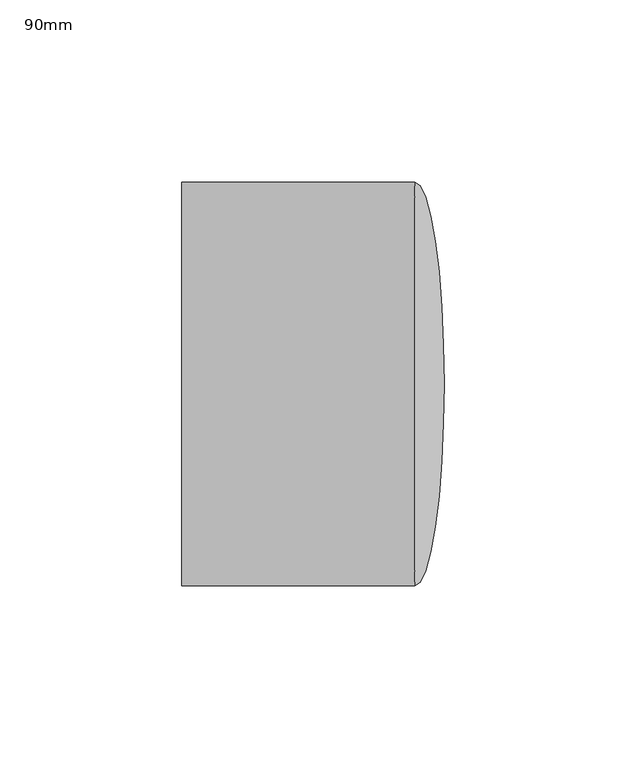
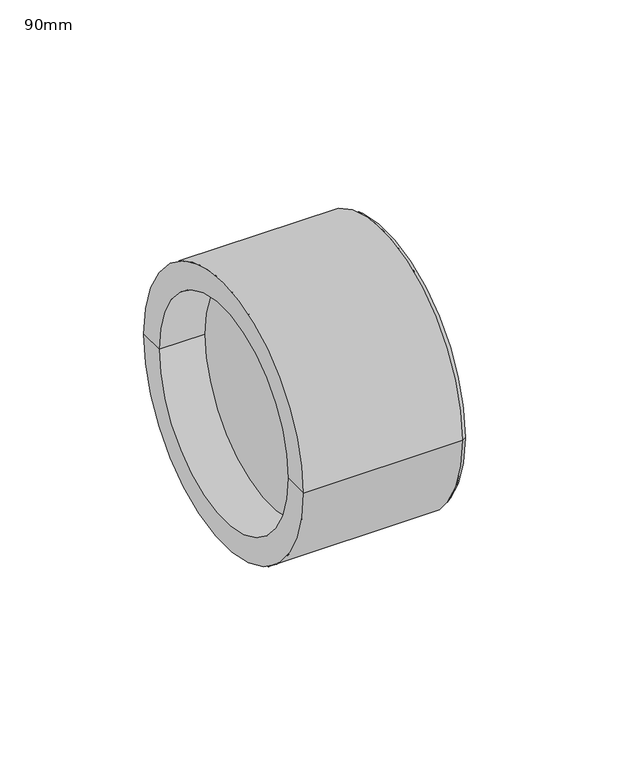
"""IFC4 building model written with IfcOpenShell, lengths in millimetres: pipe fitting geometry, PipeFitting_HTA_CPVC_Caps : 90mm."""

import ifcopenshell
import ifcopenshell.guid

model = None  # the IFC model being written
_history = None  # IfcOwnerHistory: only IFC2X3 demands one
_inside = {}  # id of a spatial element -> (the spatial element, [elements in it])
_under = {}  # id of a project, library or spatial element -> (it, [spatial elements below it])
_declared = {}  # id of a project -> (the project, [libraries it declares])
_typed = {}  # id of a type object -> (the type object, [elements of that type])
_made_of = {}  # id of a material, layer set ... -> (it, [elements and type objects made of it])


def new_model(schema):
    """Start an empty IFC model of exactly this schema.

    Asked for "IFC4X3", IfcOpenShell would pick the latest addendum, in which some entities
    have other attributes; the version numbers below select the first issue.
    IFC2X3 requires an IfcOwnerHistory on every rooted entity: one is made here for all.
    """
    global model, _history
    if schema == "IFC4X3":
        model = ifcopenshell.file(schema_version=(4, 3, 0, 0))
    else:
        model = ifcopenshell.file(schema=schema)
    _inside.clear()
    _under.clear()
    _declared.clear()
    _typed.clear()
    _made_of.clear()
    _history = None
    if model.schema == "IFC2X3":
        org = make("IfcOrganization", Name="unknown")
        user = make(
            "IfcPersonAndOrganization",
            ThePerson=make("IfcPerson", FamilyName="unknown"),
            TheOrganization=org,
        )
        app = make(
            "IfcApplication",
            ApplicationDeveloper=org,
            Version="unknown",
            ApplicationFullName="unknown",
            ApplicationIdentifier="unknown",
        )
        _history = make(
            "IfcOwnerHistory",
            OwningUser=user,
            OwningApplication=app,
            ChangeAction="ADDED",
            CreationDate=0,
        )
    return model


def make(cls, **values):
    """One entity of the class cls with the attributes given. An attribute that is None is left unset."""
    return model.create_entity(
        cls, **{name: value for name, value in values.items() if value is not None}
    )


def rooted(cls, **values):
    """An entity with a GlobalId (a new one), such as an element, a storey or a relation."""
    return make(cls, GlobalId=ifcopenshell.guid.new(), OwnerHistory=_history, **values)


def si_unit(unit_type, name, prefix=None):
    """IfcSIUnit, for example si_unit("LENGTHUNIT", "METRE", prefix="MILLI")."""
    return make("IfcSIUnit", UnitType=unit_type, Prefix=prefix, Name=name)


def assignment(units):
    """IfcUnitAssignment: the units of a project."""
    return None if units is None else make("IfcUnitAssignment", Units=units)


def point(xyz):
    """IfcCartesianPoint."""
    return None if xyz is None else make("IfcCartesianPoint", Coordinates=xyz)


def direction(xyz):
    """IfcDirection."""
    return None if xyz is None else make("IfcDirection", DirectionRatios=xyz)


def frame(location, z_axis=None, x_axis=None):
    """IfcAxis2Placement3D, a coordinate frame: its origin and axes. An axis left out is left unset."""
    return make(
        "IfcAxis2Placement3D",
        Location=point(location),
        Axis=direction(z_axis),
        RefDirection=direction(x_axis),
    )


def origin():
    """The frame at (0, 0, 0) with its axes left unset."""
    return frame((0.0, 0.0, 0.0))


def place(relative_to, where):
    """IfcLocalPlacement: puts the frame where relative to a parent placement (None: the world)."""
    return make(
        "IfcLocalPlacement", PlacementRelTo=relative_to, RelativePlacement=where
    )


def context(
    kind, dimensions, precision=None, world=None, true_north=None, identifier=None
):
    """IfcGeometricRepresentationContext, for example the 3D "Model" context."""
    return make(
        "IfcGeometricRepresentationContext",
        ContextIdentifier=identifier,
        ContextType=kind,
        CoordinateSpaceDimension=dimensions,
        Precision=precision,
        WorldCoordinateSystem=world,
        TrueNorth=true_north,
    )


def project(units=None, contexts=None):
    """IfcProject with its units and contexts."""
    return rooted(
        "IfcProject",
        Name="project",
        RepresentationContexts=contexts,
        UnitsInContext=assignment(units),
    )


def spatial(cls, under=None, at=None, **own):
    """A site, building, storey or space (cls), placed at a placement, below another one or the project."""
    s = rooted(cls, ObjectPlacement=at, **own)
    if under is not None:
        _under.setdefault(under.id(), (under, []))[1].append(s)
    return s


def polyline(points):
    """IfcPolyline through the points."""
    return make("IfcPolyline", Points=[point(p) for p in points])


def circle_curve(where, radius):
    """IfcCircle in the frame where."""
    return make("IfcCircle", Position=where, Radius=radius)


def ellipse_curve(where, semi_axis1, semi_axis2):
    """IfcEllipse in the frame where."""
    return make(
        "IfcEllipse", Position=where, SemiAxis1=semi_axis1, SemiAxis2=semi_axis2
    )


def trimmed(basis, trim1, trim2, sense, master):
    """IfcTrimmedCurve: the piece of a basis curve between two trims."""
    return make(
        "IfcTrimmedCurve",
        BasisCurve=basis,
        Trim1=trim1,
        Trim2=trim2,
        SenseAgreement=sense,
        MasterRepresentation=master,
    )


def shape(context_of_items, identifier, shape_type, items):
    """IfcShapeRepresentation: the items that make up one representation, for example the "Body"."""
    return make(
        "IfcShapeRepresentation",
        ContextOfItems=context_of_items,
        RepresentationIdentifier=identifier,
        RepresentationType=shape_type,
        Items=items,
    )


def source(mapping_origin, context_of_items, identifier, shape_type, items):
    """IfcRepresentationMap: a shape defined once, which mapped items show again and again."""
    return make(
        "IfcRepresentationMap",
        MappingOrigin=mapping_origin,
        MappedRepresentation=shape(context_of_items, identifier, shape_type, items),
    )


def transform(
    local_origin,
    x_axis=None,
    y_axis=None,
    z_axis=None,
    scale=None,
    scale2=None,
    scale3=None,
    uniform=True,
):
    """IfcCartesianTransformationOperator3D, or its non-uniform kind. x_axis, y_axis, z_axis: its Axis1, 2, 3."""
    if uniform:
        return make(
            "IfcCartesianTransformationOperator3D",
            Axis1=direction(x_axis),
            Axis2=direction(y_axis),
            LocalOrigin=point(local_origin),
            Scale=scale,
            Axis3=direction(z_axis),
        )
    return make(
        "IfcCartesianTransformationOperator3DnonUniform",
        Axis1=direction(x_axis),
        Axis2=direction(y_axis),
        LocalOrigin=point(local_origin),
        Scale=scale,
        Axis3=direction(z_axis),
        Scale2=scale2,
        Scale3=scale3,
    )


def mapped(mapping_source, mapping_target):
    """IfcMappedItem: shows the shape of a source again, moved by a transform."""
    return make(
        "IfcMappedItem", MappingSource=mapping_source, MappingTarget=mapping_target
    )


def made_of(thing, what):
    """Note that an element or type object is made of a material, layer set ...; save() writes the relation."""
    if what is not None:
        _made_of.setdefault(what.id(), (what, []))[1].append(thing)
    return thing


def element(
    cls,
    number,
    at=None,
    inside=None,
    cuts=None,
    type_object=None,
    material=None,
    context=None,
    identifier="Body",
    shape_type=None,
    held_by="IfcProductDefinitionShape",
    body=None,
    shapes=None,
    **own,
):
    """One element of the class cls, such as IfcWall. Its Tag is "e" and its number.

    at: its placement. inside: the storey or other place that contains it. cuts: it is an
    opening in that element (IfcRelVoidsElement). A single representation is given by context,
    identifier, shape_type and body (its items); several are given by shapes. held_by: the class
    of the entity that holds the representations. save() writes the other relations.
    """
    e = rooted(cls, Tag="e%d" % number, ObjectPlacement=at, **own)
    if body is not None:
        shapes = [shape(context, identifier, shape_type, body)]
    if shapes is not None:
        e.Representation = make(held_by, Representations=shapes)
    if inside is not None:
        _inside.setdefault(inside.id(), (inside, []))[1].append(e)
    if cuts is not None:
        rooted(
            "IfcRelVoidsElement", RelatingBuildingElement=cuts, RelatedOpeningElement=e
        )
    if type_object is not None:
        _typed.setdefault(type_object.id(), (type_object, []))[1].append(e)
    return made_of(e, material)


def aggregate(whole, parts):
    """IfcRelAggregates: a whole, such as a stair, and the parts it consists of."""
    return rooted("IfcRelAggregates", RelatingObject=whole, RelatedObjects=parts)


def save(model, path):
    """Write the relations noted so far, then the file.

    IfcRelAggregates (storeys below a building ...), IfcRelContainedInSpatialStructure (elements
    in a storey), IfcRelDefinesByType, IfcRelAssociatesMaterial and IfcRelDeclares: one each for
    every whole, place, type object, material and project.
    """
    for whole, parts in _under.values():
        aggregate(whole, parts)
    for where, things in _inside.values():
        rooted(
            "IfcRelContainedInSpatialStructure",
            RelatedElements=things,
            RelatingStructure=where,
        )
    for kind, things in _typed.values():
        rooted("IfcRelDefinesByType", RelatedObjects=things, RelatingType=kind)
    for what, things in _made_of.values():
        rooted("IfcRelAssociatesMaterial", RelatedObjects=things, RelatingMaterial=what)
    for by, libraries in _declared.values():
        rooted("IfcRelDeclares", RelatingContext=by, RelatedDefinitions=libraries)
    model.write(path)


def plane_surface(at):
    """IfcPlane: the flat surface through the origin of the frame at, square to its z axis."""
    return make("IfcPlane", Position=at)


def cylinder_surface(at, radius):
    """IfcCylindricalSurface: all points at the distance radius from the z axis of the frame at."""
    return make("IfcCylindricalSurface", Position=at, Radius=radius)


def revolved_surface(curve, axis_point, axis_direction):
    """IfcSurfaceOfRevolution: the curve turned about the line through axis_point along axis_direction."""
    return make(
        "IfcSurfaceOfRevolution",
        SweptCurve=make("IfcArbitraryOpenProfileDef", ProfileType="CURVE", Curve=curve),
        AxisPosition=make("IfcAxis1Placement", Location=point(axis_point), Axis=direction(axis_direction)),
    )


def advanced_brep(points, edges, surfaces, faces):
    """IfcAdvancedBrep: a solid bounded by faces that lie on surfaces and meet in shared edges.

    An edge is (start, end): straight between two places in points (the first is 0);
    or (start, end, curve); or (start, end, curve, False) where it runs against its curve.
    A face is (place in surfaces, loops), or (place, loops, False) where it looks against
    its surface's normal. A loop lists edges by number (the first is 1), with a minus sign
    where the edge is run from its end to its start. The first loop is the outer one.
    """
    corners = [point(p) for p in points]
    vertices = [make("IfcVertexPoint", VertexGeometry=c) for c in corners]
    made = []
    for start, end, *more in edges:
        made.append(
            make(
                "IfcEdgeCurve",
                EdgeStart=vertices[start],
                EdgeEnd=vertices[end],
                EdgeGeometry=more[0] if more else make("IfcPolyline", Points=[corners[start], corners[end]]),
                SameSense=more[1] if len(more) > 1 else True,
            )
        )
    hull = []
    for where, loops, *sense in faces:
        bounds = []
        for j, loop in enumerate(loops):
            ring = [make("IfcOrientedEdge", EdgeElement=made[abs(k) - 1], Orientation=k > 0) for k in loop]
            bounds.append(
                make(
                    "IfcFaceOuterBound" if j == 0 else "IfcFaceBound",
                    Bound=make("IfcEdgeLoop", EdgeList=ring),
                    Orientation=True,
                )
            )
        hull.append(make("IfcAdvancedFace", Bounds=bounds, FaceSurface=surfaces[where], SameSense=sense[0] if sense else True))
    return make("IfcAdvancedBrep", Outer=make("IfcClosedShell", CfsFaces=hull))


def pipe_fitting_90mm_d26f68dd(model_context):
    return source(origin(), model_context, "Body", "AdvancedBrep", [
        advanced_brep(
        [(27.9, -55.5, 0.0), (27.9, 55.5, 0.0), (36.0, 0.0, 0.0), (-36.0, -55.5, 0.0), (-36.0, 55.5, 0.0), (-36.0, -45.0, 0.0), (-36.0, 45.0, 0.0), (-17.4296875, -45.0, 0.0), (-17.4296875, 45.0, 0.0)],
        [
            (0, 1, circle_curve(frame((27.9, 0.0, 0.0), z_axis=(1.0, 0.0, 0.0), x_axis=(0.0, 1.0, 0.0)), 55.5)),
            (1, 2, ellipse_curve(frame((27.9, 0.0, 0.0), z_axis=(0.0, 0.0, -1.0), x_axis=(0.0, 1.0, 0.0)), 55.5, 8.1)),
            (2, 0, ellipse_curve(frame((27.9, 0.0, 0.0), z_axis=(0.0, 0.0, -1.0), x_axis=(0.0, -1.0, 0.0)), 55.5, 8.1)),
            (1, 0, circle_curve(frame((27.9, 0.0, 0.0), z_axis=(1.0, 0.0, 0.0), x_axis=(0.0, 1.0, 0.0)), 55.5)),
            (0, 3),
            (3, 4, circle_curve(frame((-36.0, 0.0, 0.0), z_axis=(1.0, 0.0, 0.0), x_axis=(0.0, 1.0, 0.0)), 55.5)),
            (4, 1),
            (4, 3, circle_curve(frame((-36.0, 0.0, 0.0), z_axis=(1.0, 0.0, 0.0), x_axis=(0.0, 1.0, 0.0)), 55.5)),
            (3, 5),
            (5, 6, circle_curve(frame((-36.0, 0.0, 0.0), z_axis=(1.0, 0.0, 0.0), x_axis=(0.0, 1.0, 0.0)), 45.0)),
            (6, 4),
            (6, 5, circle_curve(frame((-36.0, 0.0, 0.0), z_axis=(1.0, 0.0, 0.0), x_axis=(0.0, 1.0, 0.0)), 45.0)),
            (7, 8, circle_curve(frame((-17.4296875, 0.0, 0.0), z_axis=(-1.0, 0.0, 0.0), x_axis=(0.0, 1.0, 0.0)), 45.0)),
            (8, 7, circle_curve(frame((-17.4296875, 0.0, 0.0), z_axis=(-1.0, 0.0, 0.0), x_axis=(0.0, 1.0, 0.0)), 45.0)),
            (8, 6),
            (5, 7),
        ],
        [
            revolved_surface(trimmed(ellipse_curve(frame((27.9, 0.0, 0.0), z_axis=(0.0, 0.0, 1.0), x_axis=(0.0, 1.0, 0.0)), 55.5, 8.1), [point((36.0, 0.0, 0.0))], [point((27.9, 55.5, 0.0))], True, "CARTESIAN"), (-380.0, 0.0, 0.0), (-1.0, 0.0, 0.0)),
            cylinder_surface(frame((-380.0, 0.0, 0.0), z_axis=(-1.0, 0.0, 0.0), x_axis=(0.0, 1.0, 0.0)), 55.5),
            plane_surface(frame((-36.0, 0.0, 0.0), z_axis=(-1.0, 0.0, 0.0), x_axis=(0.0, 1.0, 0.0))),
            plane_surface(frame((-17.4296875, 45.0, 0.0), z_axis=(-1.0, 0.0, 0.0), x_axis=(0.0, 0.0, 1.0))),
            revolved_surface(polyline([(-17.4296875, 45.0, 0.0), (-36.0, 45.0, 0.0)]), (-36.0, 0.0, 0.0), (1.0, 0.0, 0.0)),
        ],
        [
            (0, [[1, 2, 3]]),
            (0, [[-2, 4, -3]]),
            (1, [[-1, 5, 6, 7]]),
            (1, [[-4, -7, 8, -5]]),
            (2, [[-6, 9, 10, 11]]),
            (2, [[-8, -11, 12, -9]]),
            (3, [[13, 14]]),
            (4, [[-14, 15, -10, 16]]),
            (4, [[-13, -16, -12, -15]]),
        ],
    ),
    ])


if __name__ == "__main__":
    model = new_model("IFC4")
    model_context = context("Model", 3, world=origin())
    ifc_project = project(units=[si_unit("LENGTHUNIT", "METRE", prefix="MILLI")], contexts=[model_context])
    site = spatial("IfcSite", under=ifc_project)
    building = spatial("IfcBuilding", under=site)
    placement = place(None, origin())
    pipe_fitting_90mm_shape = pipe_fitting_90mm_d26f68dd(model_context)
    element("IfcPipeFitting", 1, ObjectType="PipeFitting_HTA_CPVC_Caps : 90mm", at=placement, inside=building, context=model_context, shape_type="MappedRepresentation", body=[
        mapped(pipe_fitting_90mm_shape, transform((0.0, 0.0, 0.0), x_axis=(1.0, 0.0, 0.0), y_axis=(0.0, 1.0, 0.0), z_axis=(0.0, 0.0, 1.0))),
    ])
    save(model, "model.ifc")
